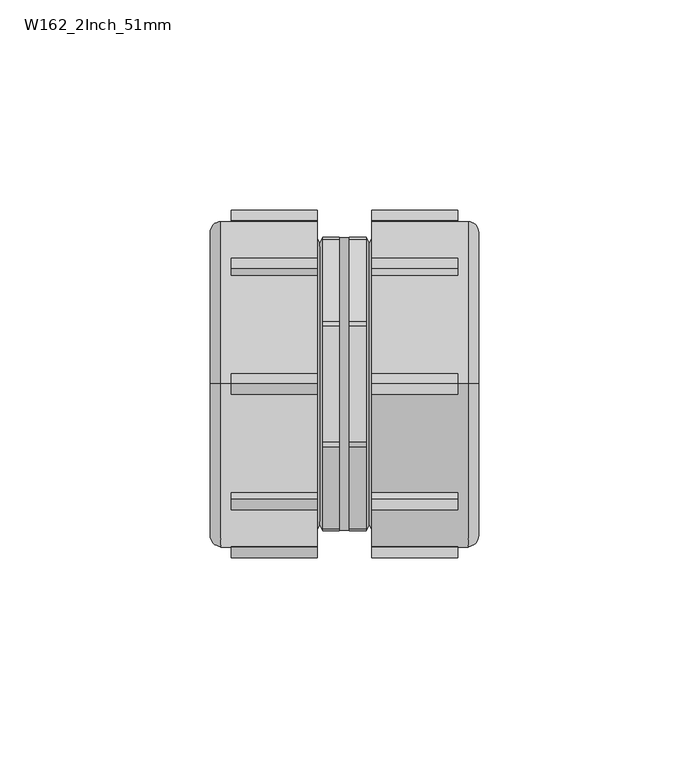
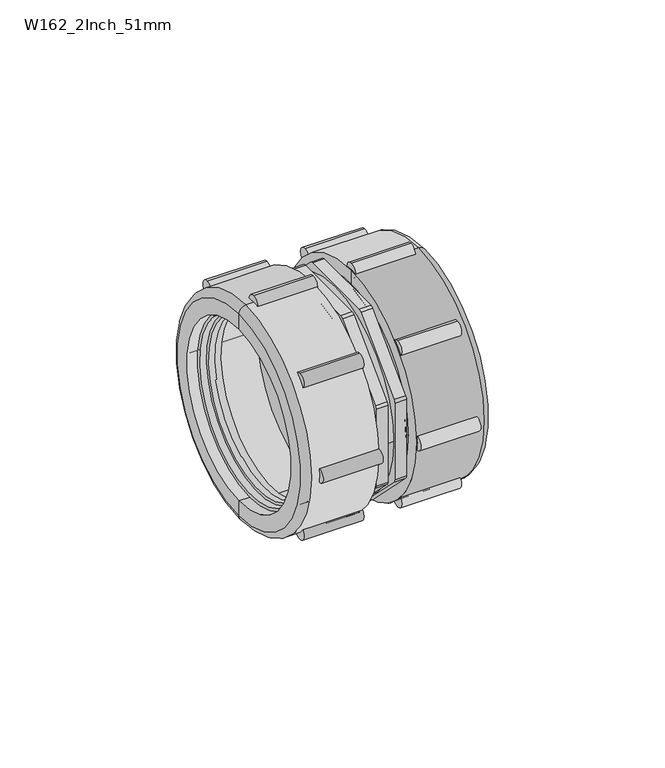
"""IFC4 building model written with IfcOpenShell, lengths in millimetres: pipe fitting geometry, Durapipe_PipeFitting_VulcatheneMechanical_LineCoupler_W16 : W162_2Inch_51mm."""

from ifc_helpers import new_model, si_unit, point, frame, frame_2d, origin, place, context, project, spatial, polyline, circle_curve, ellipse_curve, trimmed, segment, composite_curve, outline, extrude, source, transform, mapped, element, save
from ifc_brep_helpers import plane_surface, cylinder_surface, revolved_surface, advanced_brep


def w162_2inch_51mm_dc409c0e(model_context):
    return source(origin(), model_context, "Body", "SolidModel", [
        advanced_brep(
        [(28.0, -22.839549, 22.839549), (28.0, 22.839549, -22.839549), (28.0, 21.2839141, -21.2839141), (28.0, -21.2839141, 21.2839141), (22.4, -22.3445743, 22.3445743), (22.4, 22.3445743, -22.3445743), (21.0, -21.9203102, 21.9203102), (21.0, 21.9203102, -21.9203102), (22.4, 21.9203102, -21.9203102), (22.4, -21.9203102, 21.9203102), (21.0, -20.9303607, 20.9303607), (21.0, 20.9303607, -20.9303607), (23.3, -20.9303607, 20.9303607), (23.3, 20.9303607, -20.9303607), (23.3, -20.647518, 20.647518), (23.3, 20.647518, -20.647518), (25.5, -21.2839141, 21.2839141), (25.5, 21.2839141, -21.2839141), (25.5, 20.647518, -20.647518), (25.5, -20.647518, 20.647518)],
        [
            (0, 1, circle_curve(frame((28.0, 0.0, 0.0), z_axis=(1.0, 0.0, 0.0), x_axis=(0.0, 0.7071067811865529, -0.7071067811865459)), 32.3)),
            (1, 2),
            (2, 3, circle_curve(frame((28.0, 0.0, 0.0), z_axis=(-1.0, 0.0, 0.0), x_axis=(0.0, 0.7071067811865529, -0.7071067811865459)), 30.1)),
            (3, 0),
            (1, 0, circle_curve(frame((28.0, 0.0, 0.0), z_axis=(1.0, 0.0, 0.0), x_axis=(0.0, 0.7071067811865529, -0.7071067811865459)), 32.3)),
            (3, 2, circle_curve(frame((28.0, 0.0, 0.0), z_axis=(-1.0, 0.0, 0.0), x_axis=(0.0, 0.7071067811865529, -0.7071067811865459)), 30.1)),
            (4, 5, circle_curve(frame((22.4, 0.0, 0.0), z_axis=(1.0, 0.0, 0.0), x_axis=(0.0, 0.7071067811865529, -0.7071067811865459)), 31.6)),
            (5, 1),
            (0, 4),
            (5, 4, circle_curve(frame((22.4, 0.0, 0.0), z_axis=(1.0, 0.0, 0.0), x_axis=(0.0, 0.7071067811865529, -0.7071067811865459)), 31.6)),
            (6, 7, circle_curve(frame((21.0, 0.0, 0.0), z_axis=(1.0, 0.0, 0.0), x_axis=(0.0, 0.7071067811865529, -0.7071067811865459)), 31.0)),
            (7, 8),
            (8, 9, circle_curve(frame((22.4, 0.0, 0.0), z_axis=(-1.0, 0.0, 0.0), x_axis=(0.0, 0.7071067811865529, -0.7071067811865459)), 31.0)),
            (9, 6),
            (7, 6, circle_curve(frame((21.0, 0.0, 0.0), z_axis=(1.0, 0.0, 0.0), x_axis=(0.0, 0.7071067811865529, -0.7071067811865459)), 31.0)),
            (9, 8, circle_curve(frame((22.4, 0.0, 0.0), z_axis=(-1.0, 0.0, 0.0), x_axis=(0.0, 0.7071067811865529, -0.7071067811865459)), 31.0)),
            (6, 10),
            (10, 11, circle_curve(frame((21.0, 0.0, 0.0), z_axis=(1.0, 0.0, 0.0), x_axis=(0.0, 0.7071067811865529, -0.7071067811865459)), 29.6)),
            (11, 7),
            (11, 10, circle_curve(frame((21.0, 0.0, 0.0), z_axis=(1.0, 0.0, 0.0), x_axis=(0.0, 0.7071067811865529, -0.7071067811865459)), 29.6)),
            (10, 12),
            (12, 13, circle_curve(frame((23.3, 0.0, 0.0), z_axis=(1.0, 0.0, 0.0), x_axis=(0.0, 0.7071067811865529, -0.7071067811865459)), 29.6)),
            (13, 11),
            (13, 12, circle_curve(frame((23.3, 0.0, 0.0), z_axis=(1.0, 0.0, 0.0), x_axis=(0.0, 0.7071067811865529, -0.7071067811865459)), 29.6)),
            (12, 14),
            (14, 15, circle_curve(frame((23.3, 0.0, 0.0), z_axis=(1.0, 0.0, 0.0), x_axis=(0.0, 0.7071067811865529, -0.7071067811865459)), 29.2)),
            (15, 13),
            (15, 14, circle_curve(frame((23.3, 0.0, 0.0), z_axis=(1.0, 0.0, 0.0), x_axis=(0.0, 0.7071067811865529, -0.7071067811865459)), 29.2)),
            (16, 17, circle_curve(frame((25.5, 0.0, 0.0), z_axis=(1.0, 0.0, 0.0), x_axis=(0.0, 0.7071067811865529, -0.7071067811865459)), 30.1)),
            (17, 18),
            (18, 19, circle_curve(frame((25.5, 0.0, 0.0), z_axis=(-1.0, 0.0, 0.0), x_axis=(0.0, 0.7071067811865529, -0.7071067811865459)), 29.2)),
            (19, 16),
            (17, 16, circle_curve(frame((25.5, 0.0, 0.0), z_axis=(1.0, 0.0, 0.0), x_axis=(0.0, 0.7071067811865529, -0.7071067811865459)), 30.1)),
            (19, 18, circle_curve(frame((25.5, 0.0, 0.0), z_axis=(-1.0, 0.0, 0.0), x_axis=(0.0, 0.7071067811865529, -0.7071067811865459)), 29.2)),
            (2, 17),
            (16, 3),
            (14, 19),
            (18, 15),
            (4, 9),
            (8, 5),
        ],
        [
            plane_surface(frame((28.0, 0.0, 0.0), z_axis=(1.0, 0.0, 0.0), x_axis=(0.0, 0.707106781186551, -0.707106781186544))),
            revolved_surface(polyline([(28.0, 22.839549, -22.839549), (22.4, 22.3445743, -22.3445743)]), (33.0, 0.0, 0.0), (-1.0000000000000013, 0.0, 0.0)),
            cylinder_surface(frame((18.9293443, 0.0, 0.0), z_axis=(-1.0000000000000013, 0.0, 0.0), x_axis=(0.0, 0.7071067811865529, -0.7071067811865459)), 31.0),
            plane_surface(frame((21.0, 0.0, 0.0), z_axis=(-1.0, 0.0, 0.0), x_axis=(0.0, 0.707106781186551, -0.707106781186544))),
            revolved_surface(polyline([(21.000000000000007, 20.930360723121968, -20.93036072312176), (23.30000000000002, 20.930360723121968, -20.93036072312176)]), (17.507009, 0.0, 0.0), (-1.0000000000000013, 0.0, 0.0)),
            plane_surface(frame((23.3, 0.0, 0.0), z_axis=(-1.0, 0.0, 0.0), x_axis=(0.0, 0.707106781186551, -0.707106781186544))),
            plane_surface(frame((25.5, 0.0, 0.0), z_axis=(1.0, 0.0, 0.0), x_axis=(0.0, 0.707106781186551, -0.707106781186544))),
            revolved_surface(polyline([(25.49999999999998, 21.283914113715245, -21.28391411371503), (27.999999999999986, 21.283914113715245, -21.28391411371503)]), (33.0, 0.0, 0.0), (-1.0000000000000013, 0.0, 0.0)),
            revolved_surface(polyline([(23.299999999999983, 20.647518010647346, -20.64751801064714), (25.49999999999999, 20.647518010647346, -20.64751801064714)]), (29.5661924, 0.0, 0.0), (-1.0000000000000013, 0.0, 0.0)),
            plane_surface(frame((22.4, 0.0, 0.0), z_axis=(-1.0, 0.0, 0.0), x_axis=(0.0, 0.707106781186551, -0.707106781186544))),
        ],
        [
            (0, [[1, 2, 3, 4]]),
            (0, [[-2, 5, -4, 6]]),
            (1, [[7, 8, -1, 9]]),
            (1, [[10, -9, -5, -8]]),
            (2, [[11, 12, 13, 14]]),
            (2, [[-12, 15, -14, 16]]),
            (3, [[-11, 17, 18, 19]]),
            (3, [[-15, -19, 20, -17]]),
            (4, [[21, 22, 23, -18]]),
            (4, [[-21, -20, -23, 24]]),
            (5, [[-22, 25, 26, 27]]),
            (5, [[-24, -27, 28, -25]]),
            (6, [[29, 30, 31, 32]]),
            (6, [[33, -32, 34, -30]]),
            (7, [[-3, 35, -29, 36]]),
            (7, [[-6, -36, -33, -35]]),
            (8, [[37, -31, 38, -26]]),
            (8, [[-37, -28, -38, -34]]),
            (9, [[-7, 39, -13, 40]]),
            (9, [[-10, -40, -16, -39]]),
        ],
    ),
        advanced_brep(
        [(6.5, 0.0, 38.8), (6.5, 0.0, -38.8), (29.4, 0.0, -38.8), (29.4, 0.0, 38.8), (6.5, 0.0, 33.0), (6.5, 0.0, -33.0), (31.9, 0.0, 36.3), (31.9, 0.0, -36.3), (31.9, 0.0, -31.0), (31.9, 0.0, 31.0), (28.0, 0.0, 33.0), (28.0, 0.0, -33.0), (28.0, 0.0, 31.0), (28.0, 0.0, -31.0)],
        [
            (0, 1, circle_curve(frame((6.5, 0.0, 0.0), z_axis=(1.0, 0.0, 0.0), x_axis=(0.0, 0.0, -1.0000000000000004)), 38.8)),
            (1, 2),
            (2, 3, circle_curve(frame((29.4, 0.0, 0.0), z_axis=(-1.0, 0.0, 0.0), x_axis=(0.0, 0.0, -1.0000000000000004)), 38.8)),
            (3, 0),
            (1, 0, circle_curve(frame((6.5, 0.0, 0.0), z_axis=(1.0, 0.0, 0.0), x_axis=(0.0, 0.0, -1.0000000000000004)), 38.8)),
            (3, 2, circle_curve(frame((29.4, 0.0, 0.0), z_axis=(-1.0, 0.0, 0.0), x_axis=(0.0, 0.0, -1.0000000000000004)), 38.8)),
            (4, 5, circle_curve(frame((6.5, 0.0, 0.0), z_axis=(1.0, 0.0, 0.0), x_axis=(0.0, 0.0, -1.0000000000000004)), 33.0)),
            (5, 1),
            (0, 4),
            (5, 4, circle_curve(frame((6.5, 0.0, 0.0), z_axis=(1.0, 0.0, 0.0), x_axis=(0.0, 0.0, -1.0000000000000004)), 33.0)),
            (6, 7, circle_curve(frame((31.9, 0.0, 0.0), z_axis=(1.0, 0.0, 0.0), x_axis=(0.0, 0.0, -1.0000000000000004)), 36.3)),
            (7, 8),
            (8, 9, circle_curve(frame((31.9, 0.0, 0.0), z_axis=(-1.0, 0.0, 0.0), x_axis=(0.0, 0.0, -1.0000000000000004)), 31.0)),
            (9, 6),
            (7, 6, circle_curve(frame((31.9, 0.0, 0.0), z_axis=(1.0, 0.0, 0.0), x_axis=(0.0, 0.0, -1.0000000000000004)), 36.3)),
            (9, 8, circle_curve(frame((31.9, 0.0, 0.0), z_axis=(-1.0, 0.0, 0.0), x_axis=(0.0, 0.0, -1.0000000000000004)), 31.0)),
            (2, 7, circle_curve(frame((29.4, 0.0, -36.3), z_axis=(0.0, -1.0000000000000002, 0.0), x_axis=(1.0000000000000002, 0.0, 0.0)), 2.5)),
            (6, 3, circle_curve(frame((29.4, 0.0, 36.3), z_axis=(0.0, -1.0000000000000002, 0.0), x_axis=(1.0000000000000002, 0.0, 0.0)), 2.5)),
            (10, 11, circle_curve(frame((28.0, 0.0, 0.0), z_axis=(1.0, 0.0, 0.0), x_axis=(0.0, 0.0, -1.0000000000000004)), 33.0)),
            (11, 5),
            (4, 10),
            (11, 10, circle_curve(frame((28.0, 0.0, 0.0), z_axis=(1.0, 0.0, 0.0), x_axis=(0.0, 0.0, -1.0000000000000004)), 33.0)),
            (12, 13, circle_curve(frame((28.0, 0.0, 0.0), z_axis=(1.0, 0.0, 0.0), x_axis=(0.0, 0.0, -1.0000000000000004)), 31.0)),
            (13, 11),
            (10, 12),
            (13, 12, circle_curve(frame((28.0, 0.0, 0.0), z_axis=(1.0, 0.0, 0.0), x_axis=(0.0, 0.0, -1.0000000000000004)), 31.0)),
            (8, 13),
            (12, 9),
        ],
        [
            cylinder_surface(frame((1592.7018184, 0.0, 0.0), z_axis=(-1.0000000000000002, 0.0, 0.0), x_axis=(0.0, 0.0, -1.0000000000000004)), 38.8),
            plane_surface(frame((6.5, 0.0, 0.0), z_axis=(-1.0, 0.0, 0.0), x_axis=(0.0, 0.0, -1.0))),
            plane_surface(frame((31.9, 0.0, 0.0), z_axis=(1.0, 0.0, 0.0), x_axis=(0.0, 0.0, -1.0))),
            revolved_surface(trimmed(ellipse_curve(frame((29.4, 0.0, -36.3), z_axis=(0.0, 1.0000000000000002, 0.0), x_axis=(1.0000000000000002, 0.0, 0.0)), 2.5, 2.5), [point((31.9, 0.0, -36.3))], [point((29.4, 0.0, -38.8))], True, "CARTESIAN"), (1592.7018184, 0.0, 0.0), (-1.0000000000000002, 0.0, 0.0)),
            revolved_surface(polyline([(6.4999999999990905, 0.0, -33.000000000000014), (27.99999999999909, 0.0, -33.000000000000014)]), (1592.7018184, 0.0, 0.0), (-1.0000000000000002, 0.0, 0.0)),
            plane_surface(frame((28.0, 0.0, 0.0), z_axis=(-1.0, 0.0, 0.0), x_axis=(0.0, 0.0, -1.0))),
            revolved_surface(polyline([(27.99999999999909, 0.0, -31.000000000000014), (31.89999999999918, 0.0, -31.000000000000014)]), (1592.7018184, 0.0, 0.0), (-1.0000000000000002, 0.0, 0.0)),
        ],
        [
            (0, [[1, 2, 3, 4]]),
            (0, [[5, -4, 6, -2]]),
            (1, [[7, 8, -1, 9]]),
            (1, [[10, -9, -5, -8]]),
            (2, [[11, 12, 13, 14]]),
            (2, [[15, -14, 16, -12]]),
            (3, [[-3, 17, -11, 18]]),
            (3, [[-6, -18, -15, -17]]),
            (4, [[19, 20, -7, 21]]),
            (4, [[22, -21, -10, -20]]),
            (5, [[23, 24, -19, 25]]),
            (5, [[26, -25, -22, -24]]),
            (6, [[-13, 27, -23, 28]]),
            (6, [[-16, -28, -26, -27]]),
        ],
    ),
        extrude(outline(composite_curve([segment(trimmed(circle_curve(frame_2d((38.8, 0.0)), 2.5), [point((38.8, 2.5))], [point((38.8, -2.5))], False, "CARTESIAN"), True, "CONTINUOUS"), segment(trimmed(circle_curve(frame_2d((38.8, 0.0)), 2.5), [point((38.8, -2.5))], [point((38.8, 2.5))], False, "CARTESIAN"), True, "CONTINUOUS")], self_intersect=False)), frame((6.5, 0.0, 0.0), z_axis=(1.0, 0.0, 0.0), x_axis=(0.0, 1.0, 0.0)), (0.0, 0.0, 1.0), 20.4),
        extrude(outline(composite_curve([segment(trimmed(circle_curve(frame_2d((27.4357431, -27.4357431)), 2.5), [point((27.4357431, -24.9357431))], [point((27.4357431, -29.9357431))], False, "CARTESIAN"), True, "CONTINUOUS"), segment(trimmed(circle_curve(frame_2d((27.4357431, -27.4357431)), 2.5), [point((27.4357431, -29.9357431))], [point((27.4357431, -24.9357431))], False, "CARTESIAN"), True, "CONTINUOUS")], self_intersect=False)), frame((6.5, 0.0, 0.0), z_axis=(1.0, 0.0, 0.0), x_axis=(0.0, 1.0, 0.0)), (0.0, 0.0, 1.0), 20.4),
        extrude(outline(composite_curve([segment(trimmed(circle_curve(frame_2d((0.0, -38.8)), 2.5), [point((0.0, -36.3))], [point((0.0, -41.3))], False, "CARTESIAN"), True, "CONTINUOUS"), segment(trimmed(circle_curve(frame_2d((0.0, -38.8)), 2.5), [point((0.0, -41.3))], [point((0.0, -36.3))], False, "CARTESIAN"), True, "CONTINUOUS")], self_intersect=False)), frame((6.5, 0.0, 0.0), z_axis=(1.0, 0.0, 0.0), x_axis=(0.0, 1.0, 0.0)), (0.0, 0.0, 1.0), 20.4),
        extrude(outline(composite_curve([segment(trimmed(circle_curve(frame_2d((-27.4357431, -27.4357431)), 2.5), [point((-27.4357431, -24.9357431))], [point((-27.4357431, -29.9357431))], False, "CARTESIAN"), True, "CONTINUOUS"), segment(trimmed(circle_curve(frame_2d((-27.4357431, -27.4357431)), 2.5), [point((-27.4357431, -29.9357431))], [point((-27.4357431, -24.9357431))], False, "CARTESIAN"), True, "CONTINUOUS")], self_intersect=False)), frame((6.5, 0.0, 0.0), z_axis=(1.0, 0.0, 0.0), x_axis=(0.0, 1.0, 0.0)), (0.0, 0.0, 1.0), 20.4),
        extrude(outline(composite_curve([segment(trimmed(circle_curve(frame_2d((-38.8, 0.0)), 2.5), [point((-38.8, 2.5))], [point((-38.8, -2.5))], False, "CARTESIAN"), True, "CONTINUOUS"), segment(trimmed(circle_curve(frame_2d((-38.8, 0.0)), 2.5), [point((-38.8, -2.5))], [point((-38.8, 2.5))], False, "CARTESIAN"), True, "CONTINUOUS")], self_intersect=False)), frame((6.5, 0.0, 0.0), z_axis=(1.0, 0.0, 0.0), x_axis=(0.0, 1.0, 0.0)), (0.0, 0.0, 1.0), 20.4),
        extrude(outline(composite_curve([segment(trimmed(circle_curve(frame_2d((-27.4357431, 27.4357431)), 2.5), [point((-27.4357431, 29.9357431))], [point((-27.4357431, 24.9357431))], False, "CARTESIAN"), True, "CONTINUOUS"), segment(trimmed(circle_curve(frame_2d((-27.4357431, 27.4357431)), 2.5), [point((-27.4357431, 24.9357431))], [point((-27.4357431, 29.9357431))], False, "CARTESIAN"), True, "CONTINUOUS")], self_intersect=False)), frame((6.5, 0.0, 0.0), z_axis=(1.0, 0.0, 0.0), x_axis=(0.0, 1.0, 0.0)), (0.0, 0.0, 1.0), 20.4),
        extrude(outline(composite_curve([segment(trimmed(circle_curve(frame_2d((0.0, 38.8)), 2.5), [point((0.0, 41.3))], [point((0.0, 36.3))], False, "CARTESIAN"), True, "CONTINUOUS"), segment(trimmed(circle_curve(frame_2d((0.0, 38.8)), 2.5), [point((0.0, 36.3))], [point((0.0, 41.3))], False, "CARTESIAN"), True, "CONTINUOUS")], self_intersect=False)), frame((6.5, 0.0, 0.0), z_axis=(1.0, 0.0, 0.0), x_axis=(0.0, 1.0, 0.0)), (0.0, 0.0, 1.0), 20.4),
        extrude(outline(composite_curve([segment(trimmed(circle_curve(frame_2d((27.4357431, 27.4357431)), 2.5), [point((27.4357431, 29.9357431))], [point((27.4357431, 24.9357431))], False, "CARTESIAN"), True, "CONTINUOUS"), segment(trimmed(circle_curve(frame_2d((27.4357431, 27.4357431)), 2.5), [point((27.4357431, 24.9357431))], [point((27.4357431, 29.9357431))], False, "CARTESIAN"), True, "CONTINUOUS")], self_intersect=False)), frame((6.5, 0.0, 0.0), z_axis=(1.0, 0.0, 0.0), x_axis=(0.0, 1.0, 0.0)), (0.0, 0.0, 1.0), 20.4),
        advanced_brep(
        [(-28.0, -22.839549, -22.839549), (-28.0, 22.839549, 22.839549), (-28.0, 21.2839141, 21.2839141), (-28.0, -21.2839141, -21.2839141), (-22.4, -22.3445743, -22.3445743), (-22.4, 22.3445743, 22.3445743), (-21.0, -21.9203102, -21.9203102), (-21.0, 21.9203102, 21.9203102), (-22.4, 21.9203102, 21.9203102), (-22.4, -21.9203102, -21.9203102), (-21.0, -20.9303607, -20.9303607), (-21.0, 20.9303607, 20.9303607), (-23.3, -20.9303607, -20.9303607), (-23.3, 20.9303607, 20.9303607), (-23.3, -20.647518, -20.647518), (-23.3, 20.647518, 20.647518), (-25.5, -21.2839141, -21.2839141), (-25.5, 21.2839141, 21.2839141), (-25.5, 20.647518, 20.647518), (-25.5, -20.647518, -20.647518)],
        [
            (0, 1, circle_curve(frame((-28.0, 0.0, 0.0), z_axis=(-1.0, 0.0, 0.0), x_axis=(0.0, 0.7071067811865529, 0.7071067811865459)), 32.3)),
            (1, 2),
            (2, 3, circle_curve(frame((-28.0, 0.0, 0.0), z_axis=(1.0, 0.0, 0.0), x_axis=(0.0, 0.7071067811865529, 0.7071067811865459)), 30.1)),
            (3, 0),
            (1, 0, circle_curve(frame((-28.0, 0.0, 0.0), z_axis=(-1.0, 0.0, 0.0), x_axis=(0.0, 0.7071067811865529, 0.7071067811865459)), 32.3)),
            (3, 2, circle_curve(frame((-28.0, 0.0, 0.0), z_axis=(1.0, 0.0, 0.0), x_axis=(0.0, 0.7071067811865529, 0.7071067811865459)), 30.1)),
            (4, 5, circle_curve(frame((-22.4, 0.0, 0.0), z_axis=(-1.0, 0.0, 0.0), x_axis=(0.0, 0.7071067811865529, 0.7071067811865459)), 31.6)),
            (5, 1),
            (0, 4),
            (5, 4, circle_curve(frame((-22.4, 0.0, 0.0), z_axis=(-1.0, 0.0, 0.0), x_axis=(0.0, 0.7071067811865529, 0.7071067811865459)), 31.6)),
            (6, 7, circle_curve(frame((-21.0, 0.0, 0.0), z_axis=(-1.0, 0.0, 0.0), x_axis=(0.0, 0.7071067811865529, 0.7071067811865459)), 31.0)),
            (7, 8),
            (8, 9, circle_curve(frame((-22.4, 0.0, 0.0), z_axis=(1.0, 0.0, 0.0), x_axis=(0.0, 0.7071067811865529, 0.7071067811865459)), 31.0)),
            (9, 6),
            (7, 6, circle_curve(frame((-21.0, 0.0, 0.0), z_axis=(-1.0, 0.0, 0.0), x_axis=(0.0, 0.7071067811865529, 0.7071067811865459)), 31.0)),
            (9, 8, circle_curve(frame((-22.4, 0.0, 0.0), z_axis=(1.0, 0.0, 0.0), x_axis=(0.0, 0.7071067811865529, 0.7071067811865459)), 31.0)),
            (6, 10),
            (10, 11, circle_curve(frame((-21.0, 0.0, 0.0), z_axis=(-1.0, 0.0, 0.0), x_axis=(0.0, 0.7071067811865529, 0.7071067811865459)), 29.6)),
            (11, 7),
            (11, 10, circle_curve(frame((-21.0, 0.0, 0.0), z_axis=(-1.0, 0.0, 0.0), x_axis=(0.0, 0.7071067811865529, 0.7071067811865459)), 29.6)),
            (10, 12),
            (12, 13, circle_curve(frame((-23.3, 0.0, 0.0), z_axis=(-1.0, 0.0, 0.0), x_axis=(0.0, 0.7071067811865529, 0.7071067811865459)), 29.6)),
            (13, 11),
            (13, 12, circle_curve(frame((-23.3, 0.0, 0.0), z_axis=(-1.0, 0.0, 0.0), x_axis=(0.0, 0.7071067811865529, 0.7071067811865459)), 29.6)),
            (12, 14),
            (14, 15, circle_curve(frame((-23.3, 0.0, 0.0), z_axis=(-1.0, 0.0, 0.0), x_axis=(0.0, 0.7071067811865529, 0.7071067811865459)), 29.2)),
            (15, 13),
            (15, 14, circle_curve(frame((-23.3, 0.0, 0.0), z_axis=(-1.0, 0.0, 0.0), x_axis=(0.0, 0.7071067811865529, 0.7071067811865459)), 29.2)),
            (16, 17, circle_curve(frame((-25.5, 0.0, 0.0), z_axis=(-1.0, 0.0, 0.0), x_axis=(0.0, 0.7071067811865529, 0.7071067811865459)), 30.1)),
            (17, 18),
            (18, 19, circle_curve(frame((-25.5, 0.0, 0.0), z_axis=(1.0, 0.0, 0.0), x_axis=(0.0, 0.7071067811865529, 0.7071067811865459)), 29.2)),
            (19, 16),
            (17, 16, circle_curve(frame((-25.5, 0.0, 0.0), z_axis=(-1.0, 0.0, 0.0), x_axis=(0.0, 0.7071067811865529, 0.7071067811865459)), 30.1)),
            (19, 18, circle_curve(frame((-25.5, 0.0, 0.0), z_axis=(1.0, 0.0, 0.0), x_axis=(0.0, 0.7071067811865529, 0.7071067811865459)), 29.2)),
            (2, 17),
            (16, 3),
            (14, 19),
            (18, 15),
            (4, 9),
            (8, 5),
        ],
        [
            plane_surface(frame((-28.0, 0.0, 0.0), z_axis=(-1.0, 0.0, 0.0), x_axis=(0.0, 0.707106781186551, 0.707106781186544))),
            revolved_surface(polyline([(-28.0, 22.839549, 22.839549), (-22.4, 22.3445743, 22.3445743)]), (-33.0, 0.0, 0.0), (1.0000000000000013, 0.0, 0.0)),
            cylinder_surface(frame((-18.9293443, 0.0, 0.0), z_axis=(1.0000000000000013, 0.0, 0.0), x_axis=(0.0, 0.7071067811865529, 0.7071067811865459)), 31.0),
            plane_surface(frame((-21.0, 0.0, 0.0), z_axis=(1.0, 0.0, 0.0), x_axis=(0.0, 0.707106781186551, 0.707106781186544))),
            revolved_surface(polyline([(-21.000000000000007, 20.930360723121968, 20.93036072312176), (-23.30000000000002, 20.930360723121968, 20.93036072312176)]), (-17.507009, 0.0, 0.0), (1.0000000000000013, 0.0, 0.0)),
            plane_surface(frame((-23.3, 0.0, 0.0), z_axis=(1.0, 0.0, 0.0), x_axis=(0.0, 0.707106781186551, 0.707106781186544))),
            plane_surface(frame((-25.5, 0.0, 0.0), z_axis=(-1.0, 0.0, 0.0), x_axis=(0.0, 0.707106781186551, 0.707106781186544))),
            revolved_surface(polyline([(-25.49999999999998, 21.283914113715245, 21.28391411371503), (-27.999999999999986, 21.283914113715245, 21.28391411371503)]), (-33.0, 0.0, 0.0), (1.0000000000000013, 0.0, 0.0)),
            revolved_surface(polyline([(-23.299999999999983, 20.647518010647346, 20.64751801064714), (-25.49999999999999, 20.647518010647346, 20.64751801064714)]), (-29.5661924, 0.0, 0.0), (1.0000000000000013, 0.0, 0.0)),
            plane_surface(frame((-22.4, 0.0, 0.0), z_axis=(1.0, 0.0, 0.0), x_axis=(0.0, 0.707106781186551, 0.707106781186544))),
        ],
        [
            (0, [[1, 2, 3, 4]]),
            (0, [[-2, 5, -4, 6]]),
            (1, [[7, 8, -1, 9]]),
            (1, [[10, -9, -5, -8]]),
            (2, [[11, 12, 13, 14]]),
            (2, [[-12, 15, -14, 16]]),
            (3, [[-11, 17, 18, 19]]),
            (3, [[-15, -19, 20, -17]]),
            (4, [[21, 22, 23, -18]]),
            (4, [[-21, -20, -23, 24]]),
            (5, [[-22, 25, 26, 27]]),
            (5, [[-24, -27, 28, -25]]),
            (6, [[29, 30, 31, 32]]),
            (6, [[33, -32, 34, -30]]),
            (7, [[-3, 35, -29, 36]]),
            (7, [[-6, -36, -33, -35]]),
            (8, [[37, -31, 38, -26]]),
            (8, [[-37, -28, -38, -34]]),
            (9, [[-7, 39, -13, 40]]),
            (9, [[-10, -40, -16, -39]]),
        ],
    ),
        advanced_brep(
        [(-6.5, 0.0, -38.8), (-6.5, 0.0, 38.8), (-29.4, 0.0, 38.8), (-29.4, 0.0, -38.8), (-6.5, 0.0, -33.0), (-6.5, 0.0, 33.0), (-31.9, 0.0, -36.3), (-31.9, 0.0, 36.3), (-31.9, 0.0, 31.0), (-31.9, 0.0, -31.0), (-28.0, 0.0, -33.0), (-28.0, 0.0, 33.0), (-28.0, 0.0, -31.0), (-28.0, 0.0, 31.0)],
        [
            (0, 1, circle_curve(frame((-6.5, 0.0, 0.0), z_axis=(-1.0, 0.0, 0.0), x_axis=(0.0, 0.0, 1.0000000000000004)), 38.8)),
            (1, 2),
            (2, 3, circle_curve(frame((-29.4, 0.0, 0.0), z_axis=(1.0, 0.0, 0.0), x_axis=(0.0, 0.0, 1.0000000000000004)), 38.8)),
            (3, 0),
            (1, 0, circle_curve(frame((-6.5, 0.0, 0.0), z_axis=(-1.0, 0.0, 0.0), x_axis=(0.0, 0.0, 1.0000000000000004)), 38.8)),
            (3, 2, circle_curve(frame((-29.4, 0.0, 0.0), z_axis=(1.0, 0.0, 0.0), x_axis=(0.0, 0.0, 1.0000000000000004)), 38.8)),
            (4, 5, circle_curve(frame((-6.5, 0.0, 0.0), z_axis=(-1.0, 0.0, 0.0), x_axis=(0.0, 0.0, 1.0000000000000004)), 33.0)),
            (5, 1),
            (0, 4),
            (5, 4, circle_curve(frame((-6.5, 0.0, 0.0), z_axis=(-1.0, 0.0, 0.0), x_axis=(0.0, 0.0, 1.0000000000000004)), 33.0)),
            (6, 7, circle_curve(frame((-31.9, 0.0, 0.0), z_axis=(-1.0, 0.0, 0.0), x_axis=(0.0, 0.0, 1.0000000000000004)), 36.3)),
            (7, 8),
            (8, 9, circle_curve(frame((-31.9, 0.0, 0.0), z_axis=(1.0, 0.0, 0.0), x_axis=(0.0, 0.0, 1.0000000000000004)), 31.0)),
            (9, 6),
            (7, 6, circle_curve(frame((-31.9, 0.0, 0.0), z_axis=(-1.0, 0.0, 0.0), x_axis=(0.0, 0.0, 1.0000000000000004)), 36.3)),
            (9, 8, circle_curve(frame((-31.9, 0.0, 0.0), z_axis=(1.0, 0.0, 0.0), x_axis=(0.0, 0.0, 1.0000000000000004)), 31.0)),
            (2, 7, circle_curve(frame((-29.4, 0.0, 36.3), z_axis=(0.0, -1.0000000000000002, 0.0), x_axis=(-1.0000000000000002, 0.0, 0.0)), 2.5)),
            (6, 3, circle_curve(frame((-29.4, 0.0, -36.3), z_axis=(0.0, -1.0000000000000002, 0.0), x_axis=(-1.0000000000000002, 0.0, 0.0)), 2.5)),
            (10, 11, circle_curve(frame((-28.0, 0.0, 0.0), z_axis=(-1.0, 0.0, 0.0), x_axis=(0.0, 0.0, 1.0000000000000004)), 33.0)),
            (11, 5),
            (4, 10),
            (11, 10, circle_curve(frame((-28.0, 0.0, 0.0), z_axis=(-1.0, 0.0, 0.0), x_axis=(0.0, 0.0, 1.0000000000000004)), 33.0)),
            (12, 13, circle_curve(frame((-28.0, 0.0, 0.0), z_axis=(-1.0, 0.0, 0.0), x_axis=(0.0, 0.0, 1.0000000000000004)), 31.0)),
            (13, 11),
            (10, 12),
            (13, 12, circle_curve(frame((-28.0, 0.0, 0.0), z_axis=(-1.0, 0.0, 0.0), x_axis=(0.0, 0.0, 1.0000000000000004)), 31.0)),
            (8, 13),
            (12, 9),
        ],
        [
            cylinder_surface(frame((-1592.7018184, 0.0, 0.0), z_axis=(1.0000000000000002, 0.0, 0.0), x_axis=(0.0, 0.0, 1.0000000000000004)), 38.8),
            plane_surface(frame((-6.5, 0.0, 0.0), z_axis=(1.0, 0.0, 0.0), x_axis=(0.0, 0.0, 1.0))),
            plane_surface(frame((-31.9, 0.0, 0.0), z_axis=(-1.0, 0.0, 0.0), x_axis=(0.0, 0.0, 1.0))),
            revolved_surface(trimmed(ellipse_curve(frame((-29.4, 0.0, 36.3), z_axis=(0.0, 1.0000000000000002, 0.0), x_axis=(-1.0000000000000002, 0.0, 0.0)), 2.5, 2.5), [point((-31.9, 0.0, 36.3))], [point((-29.4, 0.0, 38.8))], True, "CARTESIAN"), (-1592.7018184, 0.0, 0.0), (1.0000000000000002, 0.0, 0.0)),
            revolved_surface(polyline([(-6.4999999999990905, 0.0, 33.000000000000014), (-27.99999999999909, 0.0, 33.000000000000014)]), (-1592.7018184, 0.0, 0.0), (1.0000000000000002, 0.0, 0.0)),
            plane_surface(frame((-28.0, 0.0, 0.0), z_axis=(1.0, 0.0, 0.0), x_axis=(0.0, 0.0, 1.0))),
            revolved_surface(polyline([(-27.99999999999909, 0.0, 31.000000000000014), (-31.89999999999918, 0.0, 31.000000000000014)]), (-1592.7018184, 0.0, 0.0), (1.0000000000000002, 0.0, 0.0)),
        ],
        [
            (0, [[1, 2, 3, 4]]),
            (0, [[5, -4, 6, -2]]),
            (1, [[7, 8, -1, 9]]),
            (1, [[10, -9, -5, -8]]),
            (2, [[11, 12, 13, 14]]),
            (2, [[15, -14, 16, -12]]),
            (3, [[-3, 17, -11, 18]]),
            (3, [[-6, -18, -15, -17]]),
            (4, [[19, 20, -7, 21]]),
            (4, [[22, -21, -10, -20]]),
            (5, [[23, 24, -19, 25]]),
            (5, [[26, -25, -22, -24]]),
            (6, [[-13, 27, -23, 28]]),
            (6, [[-16, -28, -26, -27]]),
        ],
    ),
        extrude(outline(composite_curve([segment(trimmed(circle_curve(frame_2d((38.8, 0.0)), 2.5), [point((38.8, -2.5))], [point((38.8, 2.5))], False, "CARTESIAN"), True, "CONTINUOUS"), segment(trimmed(circle_curve(frame_2d((38.8, 0.0)), 2.5), [point((38.8, 2.5))], [point((38.8, -2.5))], False, "CARTESIAN"), True, "CONTINUOUS")], self_intersect=False)), frame((-26.9, 0.0, 0.0), z_axis=(1.0, 0.0, 0.0), x_axis=(0.0, 1.0, 0.0)), (0.0, 0.0, 1.0), 20.4),
        extrude(outline(composite_curve([segment(trimmed(circle_curve(frame_2d((27.4357431, 27.4357431)), 2.5), [point((27.4357431, 24.9357431))], [point((27.4357431, 29.9357431))], False, "CARTESIAN"), True, "CONTINUOUS"), segment(trimmed(circle_curve(frame_2d((27.4357431, 27.4357431)), 2.5), [point((27.4357431, 29.9357431))], [point((27.4357431, 24.9357431))], False, "CARTESIAN"), True, "CONTINUOUS")], self_intersect=False)), frame((-26.9, 0.0, 0.0), z_axis=(1.0, 0.0, 0.0), x_axis=(0.0, 1.0, 0.0)), (0.0, 0.0, 1.0), 20.4),
        extrude(outline(composite_curve([segment(trimmed(circle_curve(frame_2d((0.0, 38.8)), 2.5), [point((0.0, 36.3))], [point((0.0, 41.3))], False, "CARTESIAN"), True, "CONTINUOUS"), segment(trimmed(circle_curve(frame_2d((0.0, 38.8)), 2.5), [point((0.0, 41.3))], [point((0.0, 36.3))], False, "CARTESIAN"), True, "CONTINUOUS")], self_intersect=False)), frame((-26.9, 0.0, 0.0), z_axis=(1.0, 0.0, 0.0), x_axis=(0.0, 1.0, 0.0)), (0.0, 0.0, 1.0), 20.4),
        extrude(outline(composite_curve([segment(trimmed(circle_curve(frame_2d((-27.4357431, 27.4357431)), 2.5), [point((-27.4357431, 24.9357431))], [point((-27.4357431, 29.9357431))], False, "CARTESIAN"), True, "CONTINUOUS"), segment(trimmed(circle_curve(frame_2d((-27.4357431, 27.4357431)), 2.5), [point((-27.4357431, 29.9357431))], [point((-27.4357431, 24.9357431))], False, "CARTESIAN"), True, "CONTINUOUS")], self_intersect=False)), frame((-26.9, 0.0, 0.0), z_axis=(1.0, 0.0, 0.0), x_axis=(0.0, 1.0, 0.0)), (0.0, 0.0, 1.0), 20.4),
        extrude(outline(composite_curve([segment(trimmed(circle_curve(frame_2d((-38.8, 0.0)), 2.5), [point((-38.8, -2.5))], [point((-38.8, 2.5))], False, "CARTESIAN"), True, "CONTINUOUS"), segment(trimmed(circle_curve(frame_2d((-38.8, 0.0)), 2.5), [point((-38.8, 2.5))], [point((-38.8, -2.5))], False, "CARTESIAN"), True, "CONTINUOUS")], self_intersect=False)), frame((-26.9, 0.0, 0.0), z_axis=(1.0, 0.0, 0.0), x_axis=(0.0, 1.0, 0.0)), (0.0, 0.0, 1.0), 20.4),
        extrude(outline(composite_curve([segment(trimmed(circle_curve(frame_2d((-27.4357431, -27.4357431)), 2.5), [point((-27.4357431, -29.9357431))], [point((-27.4357431, -24.9357431))], False, "CARTESIAN"), True, "CONTINUOUS"), segment(trimmed(circle_curve(frame_2d((-27.4357431, -27.4357431)), 2.5), [point((-27.4357431, -24.9357431))], [point((-27.4357431, -29.9357431))], False, "CARTESIAN"), True, "CONTINUOUS")], self_intersect=False)), frame((-26.9, 0.0, 0.0), z_axis=(1.0, 0.0, 0.0), x_axis=(0.0, 1.0, 0.0)), (0.0, 0.0, 1.0), 20.4),
        extrude(outline(composite_curve([segment(trimmed(circle_curve(frame_2d((0.0, -38.8)), 2.5), [point((0.0, -41.3))], [point((0.0, -36.3))], False, "CARTESIAN"), True, "CONTINUOUS"), segment(trimmed(circle_curve(frame_2d((0.0, -38.8)), 2.5), [point((0.0, -36.3))], [point((0.0, -41.3))], False, "CARTESIAN"), True, "CONTINUOUS")], self_intersect=False)), frame((-26.9, 0.0, 0.0), z_axis=(1.0, 0.0, 0.0), x_axis=(0.0, 1.0, 0.0)), (0.0, 0.0, 1.0), 20.4),
        extrude(outline(composite_curve([segment(trimmed(circle_curve(frame_2d((27.4357431, -27.4357431)), 2.5), [point((27.4357431, -29.9357431))], [point((27.4357431, -24.9357431))], False, "CARTESIAN"), True, "CONTINUOUS"), segment(trimmed(circle_curve(frame_2d((27.4357431, -27.4357431)), 2.5), [point((27.4357431, -24.9357431))], [point((27.4357431, -29.9357431))], False, "CARTESIAN"), True, "CONTINUOUS")], self_intersect=False)), frame((-26.9, 0.0, 0.0), z_axis=(1.0, 0.0, 0.0), x_axis=(0.0, 1.0, 0.0)), (0.0, 0.0, 1.0), 20.4),
        extrude(outline(composite_curve([segment(polyline([(-13.834733, 34.9), (13.834733, 34.9)]), True, "CONTINUOUS"), segment(trimmed(circle_curve(frame_2d((13.834733, 33.4)), 1.5), [point((13.834733, 34.9))], [point((14.8953932, 34.4606602))], False, "CARTESIAN"), True, "CONTINUOUS"), segment(polyline([(14.8953932, 34.4606602), (34.4606602, 14.8953932)]), True, "CONTINUOUS"), segment(trimmed(circle_curve(frame_2d((33.4, 13.834733)), 1.5), [point((34.4606602, 14.8953932))], [point((34.9, 13.834733))], False, "CARTESIAN"), True, "CONTINUOUS"), segment(polyline([(34.9, 13.834733), (34.9, -13.834733)]), True, "CONTINUOUS"), segment(trimmed(circle_curve(frame_2d((33.4, -13.834733)), 1.5), [point((34.9, -13.834733))], [point((34.4606602, -14.8953932))], False, "CARTESIAN"), True, "CONTINUOUS"), segment(polyline([(34.4606602, -14.8953932), (14.8953932, -34.4606602)]), True, "CONTINUOUS"), segment(trimmed(circle_curve(frame_2d((13.834733, -33.4)), 1.5), [point((14.8953932, -34.4606602))], [point((13.834733, -34.9))], False, "CARTESIAN"), True, "CONTINUOUS"), segment(polyline([(13.834733, -34.9), (-13.834733, -34.9)]), True, "CONTINUOUS"), segment(trimmed(circle_curve(frame_2d((-13.834733, -33.4)), 1.5), [point((-13.834733, -34.9))], [point((-14.8953932, -34.4606602))], False, "CARTESIAN"), True, "CONTINUOUS"), segment(polyline([(-14.8953932, -34.4606602), (-34.4606602, -14.8953932)]), True, "CONTINUOUS"), segment(trimmed(circle_curve(frame_2d((-33.4, -13.834733)), 1.5), [point((-34.4606602, -14.8953932))], [point((-34.9, -13.834733))], False, "CARTESIAN"), True, "CONTINUOUS"), segment(polyline([(-34.9, -13.834733), (-34.9, 13.834733)]), True, "CONTINUOUS"), segment(trimmed(circle_curve(frame_2d((-33.4, 13.834733)), 1.5), [point((-34.9, 13.834733))], [point((-34.4606602, 14.8953932))], False, "CARTESIAN"), True, "CONTINUOUS"), segment(polyline([(-34.4606602, 14.8953932), (-14.8953932, 34.4606602)]), True, "CONTINUOUS"), segment(trimmed(circle_curve(frame_2d((-13.834733, 33.4)), 1.5), [point((-14.8953932, 34.4606602))], [point((-13.834733, 34.9))], False, "CARTESIAN"), True, "CONTINUOUS")], self_intersect=False)), frame((1.18, 0.0, 0.0), z_axis=(1.0, 0.0, 0.0), x_axis=(0.0, 1.0, 0.0)), (0.0, 0.0, 1.0), 4.0),
        extrude(outline(composite_curve([segment(polyline([(-13.834733, 34.9), (13.834733, 34.9)]), True, "CONTINUOUS"), segment(trimmed(circle_curve(frame_2d((13.834733, 33.4)), 1.5), [point((13.834733, 34.9))], [point((14.8953932, 34.4606602))], False, "CARTESIAN"), True, "CONTINUOUS"), segment(polyline([(14.8953932, 34.4606602), (34.4606602, 14.8953932)]), True, "CONTINUOUS"), segment(trimmed(circle_curve(frame_2d((33.4, 13.834733)), 1.5), [point((34.4606602, 14.8953932))], [point((34.9, 13.834733))], False, "CARTESIAN"), True, "CONTINUOUS"), segment(polyline([(34.9, 13.834733), (34.9, -13.834733)]), True, "CONTINUOUS"), segment(trimmed(circle_curve(frame_2d((33.4, -13.834733)), 1.5), [point((34.9, -13.834733))], [point((34.4606602, -14.8953932))], False, "CARTESIAN"), True, "CONTINUOUS"), segment(polyline([(34.4606602, -14.8953932), (14.8953932, -34.4606602)]), True, "CONTINUOUS"), segment(trimmed(circle_curve(frame_2d((13.834733, -33.4)), 1.5), [point((14.8953932, -34.4606602))], [point((13.834733, -34.9))], False, "CARTESIAN"), True, "CONTINUOUS"), segment(polyline([(13.834733, -34.9), (-13.834733, -34.9)]), True, "CONTINUOUS"), segment(trimmed(circle_curve(frame_2d((-13.834733, -33.4)), 1.5), [point((-13.834733, -34.9))], [point((-14.8953932, -34.4606602))], False, "CARTESIAN"), True, "CONTINUOUS"), segment(polyline([(-14.8953932, -34.4606602), (-34.4606602, -14.8953932)]), True, "CONTINUOUS"), segment(trimmed(circle_curve(frame_2d((-33.4, -13.834733)), 1.5), [point((-34.4606602, -14.8953932))], [point((-34.9, -13.834733))], False, "CARTESIAN"), True, "CONTINUOUS"), segment(polyline([(-34.9, -13.834733), (-34.9, 13.834733)]), True, "CONTINUOUS"), segment(trimmed(circle_curve(frame_2d((-33.4, 13.834733)), 1.5), [point((-34.9, 13.834733))], [point((-34.4606602, 14.8953932))], False, "CARTESIAN"), True, "CONTINUOUS"), segment(polyline([(-34.4606602, 14.8953932), (-14.8953932, 34.4606602)]), True, "CONTINUOUS"), segment(trimmed(circle_curve(frame_2d((-13.834733, 33.4)), 1.5), [point((-14.8953932, 34.4606602))], [point((-13.834733, 34.9))], False, "CARTESIAN"), True, "CONTINUOUS")], self_intersect=False)), frame((-5.18, 0.0, 0.0), z_axis=(1.0, 0.0, 0.0), x_axis=(0.0, 1.0, 0.0)), (0.0, 0.0, 1.0), 4.0),
        advanced_brep(
        [(-6.5, 0.0, 0.0), (-6.5, 34.5438964, 0.0), (-6.5, -34.5438964, 0.0), (-5.18, -34.7613234, 0.0), (-5.18, 34.7613234, 0.0), (-5.18, 0.0, 0.0), (-5.9027657, 33.5094564, 0.0), (-5.9027657, -33.5094564, 0.0)],
        [
            (0, 1),
            (1, 2, circle_curve(frame((-6.5, 0.0, 0.0), z_axis=(-1.0, 0.0, 0.0), x_axis=(0.0, 1.0, 0.0)), 34.5438964)),
            (2, 0),
            (2, 1, circle_curve(frame((-6.5, 0.0, 0.0), z_axis=(-1.0, 0.0, 0.0), x_axis=(0.0, 1.0, 0.0)), 34.5438964)),
            (3, 4, circle_curve(frame((-5.18, 0.0, 0.0), z_axis=(1.0, 0.0, 0.0), x_axis=(0.0, 1.0, 0.0)), 34.7613234)),
            (4, 5),
            (5, 3),
            (4, 3, circle_curve(frame((-5.18, 0.0, 0.0), z_axis=(1.0, 0.0, 0.0), x_axis=(0.0, 1.0, 0.0)), 34.7613234)),
            (1, 6),
            (6, 7, circle_curve(frame((-5.9027657, 0.0, 0.0), z_axis=(-1.0, 0.0, 0.0), x_axis=(0.0, 1.0, 0.0)), 33.5094564)),
            (7, 2),
            (7, 6, circle_curve(frame((-5.9027657, 0.0, 0.0), z_axis=(-1.0, 0.0, 0.0), x_axis=(0.0, 1.0, 0.0)), 33.5094564)),
            (6, 4),
            (3, 7),
        ],
        [
            plane_surface(frame((-6.5, 0.0, 0.0), z_axis=(-1.0, 0.0, 0.0), x_axis=(0.0, 1.0, 0.0))),
            plane_surface(frame((-5.18, 0.0, 0.0), z_axis=(1.0, 0.0, 0.0), x_axis=(0.0, 1.0, 0.0))),
            revolved_surface(polyline([(-5.9027657, 33.5094564, 0.0), (-6.5, 34.5438964, 0.0)]), (-13.0849993, 0.0, 0.0), (-1.0, 0.0, 0.0)),
            revolved_surface(polyline([(-5.18, 34.7613234, 0.0), (-5.9027657, 33.5094564, 0.0)]), (-13.0849993, 0.0, 0.0), (-1.0, 0.0, 0.0)),
        ],
        [
            (0, [[1, 2, 3]]),
            (0, [[-3, 4, -1]]),
            (1, [[5, 6, 7]]),
            (1, [[8, -7, -6]]),
            (2, [[-2, 9, 10, 11]]),
            (2, [[-4, -11, 12, -9]]),
            (3, [[-10, 13, -5, 14]]),
            (3, [[-12, -14, -8, -13]]),
        ],
    ),
        advanced_brep(
        [(6.5, -34.5438964, 0.0), (6.5, 34.5438964, 0.0), (6.5, 0.0, 0.0), (5.9027657, -33.5094564, 0.0), (5.9027657, 33.5094564, 0.0), (5.18, -34.7613234, 0.0), (5.18, 34.7613234, 0.0), (5.18, 0.0, 0.0)],
        [
            (0, 1, circle_curve(frame((6.5, 0.0, 0.0), z_axis=(1.0, 0.0, 0.0), x_axis=(0.0, 1.0, 0.0)), 34.5438964)),
            (1, 2),
            (2, 0),
            (1, 0, circle_curve(frame((6.5, 0.0, 0.0), z_axis=(1.0, 0.0, 0.0), x_axis=(0.0, 1.0, 0.0)), 34.5438964)),
            (3, 4, circle_curve(frame((5.9027657, 0.0, 0.0), z_axis=(1.0, 0.0, 0.0), x_axis=(0.0, 1.0, 0.0)), 33.5094564)),
            (4, 1),
            (0, 3),
            (4, 3, circle_curve(frame((5.9027657, 0.0, 0.0), z_axis=(1.0, 0.0, 0.0), x_axis=(0.0, 1.0, 0.0)), 33.5094564)),
            (5, 6, circle_curve(frame((5.18, 0.0, 0.0), z_axis=(1.0, 0.0, 0.0), x_axis=(0.0, 1.0, 0.0)), 34.7613234)),
            (6, 4),
            (3, 5),
            (6, 5, circle_curve(frame((5.18, 0.0, 0.0), z_axis=(1.0, 0.0, 0.0), x_axis=(0.0, 1.0, 0.0)), 34.7613234)),
            (7, 6),
            (5, 7),
        ],
        [
            plane_surface(frame((6.5, 0.0, 0.0), z_axis=(1.0, 0.0, 0.0), x_axis=(0.0, 1.0, 0.0))),
            revolved_surface(polyline([(6.5, 34.5438964, 0.0), (5.9027657, 33.5094564, 0.0)]), (-13.0849993, 0.0, 0.0), (-1.0, 0.0, 0.0)),
            revolved_surface(polyline([(5.9027657, 33.5094564, 0.0), (5.18, 34.7613234, 0.0)]), (-13.0849993, 0.0, 0.0), (-1.0, 0.0, 0.0)),
            plane_surface(frame((5.18, 0.0, 0.0), z_axis=(-1.0, 0.0, 0.0), x_axis=(0.0, 1.0, 0.0))),
        ],
        [
            (0, [[1, 2, 3]]),
            (0, [[4, -3, -2]]),
            (1, [[5, 6, -1, 7]]),
            (1, [[8, -7, -4, -6]]),
            (2, [[9, 10, -5, 11]]),
            (2, [[12, -11, -8, -10]]),
            (3, [[13, -9, 14]]),
            (3, [[-14, -12, -13]]),
        ],
    ),
        advanced_brep(
        [(-1.18, 0.0, 0.0), (-1.18, 34.8, 0.0), (-1.18, -34.8, 0.0), (1.2, -34.8, 0.0), (1.2, 34.8, 0.0), (1.2, 0.0, 0.0)],
        [
            (0, 1),
            (1, 2, circle_curve(frame((-1.18, 0.0, 0.0), z_axis=(-1.0, 0.0, 0.0), x_axis=(0.0, 1.0, 0.0)), 34.8)),
            (2, 0),
            (2, 1, circle_curve(frame((-1.18, 0.0, 0.0), z_axis=(-1.0, 0.0, 0.0), x_axis=(0.0, 1.0, 0.0)), 34.8)),
            (3, 4, circle_curve(frame((1.2, 0.0, 0.0), z_axis=(1.0, 0.0, 0.0), x_axis=(0.0, 1.0, 0.0)), 34.8)),
            (4, 5),
            (5, 3),
            (4, 3, circle_curve(frame((1.2, 0.0, 0.0), z_axis=(1.0, 0.0, 0.0), x_axis=(0.0, 1.0, 0.0)), 34.8)),
            (1, 4),
            (3, 2),
        ],
        [
            plane_surface(frame((-1.18, 0.0, 0.0), z_axis=(-1.0, 0.0, 0.0), x_axis=(0.0, 1.0, 0.0))),
            plane_surface(frame((1.2, 0.0, 0.0), z_axis=(1.0, 0.0, 0.0), x_axis=(0.0, 1.0, 0.0))),
            cylinder_surface(frame((-13.0849993, 0.0, 0.0), z_axis=(-1.0, 0.0, 0.0), x_axis=(0.0, 1.0, 0.0)), 34.8),
        ],
        [
            (0, [[1, 2, 3]]),
            (0, [[-3, 4, -1]]),
            (1, [[5, 6, 7]]),
            (1, [[8, -7, -6]]),
            (2, [[-2, 9, -5, 10]]),
            (2, [[-4, -10, -8, -9]]),
        ],
    ),
    ])


if __name__ == "__main__":
    model = new_model("IFC4")
    model_context = context("Model", 3, world=origin())
    ifc_project = project(units=[si_unit("LENGTHUNIT", "METRE", prefix="MILLI")], contexts=[model_context])
    site = spatial("IfcSite", under=ifc_project)
    building = spatial("IfcBuilding", under=site)
    placement = place(None, origin())
    w162_2inch_51mm_shape = w162_2inch_51mm_dc409c0e(model_context)
    element("IfcPipeFitting", 1, ObjectType="Durapipe_PipeFitting_VulcatheneMechanical_LineCoupler_W16 : W162_2Inch_51mm", at=placement, inside=building, context=model_context, shape_type="MappedRepresentation", body=[
        mapped(w162_2inch_51mm_shape, transform((0.0, 0.0, 0.0), x_axis=(1.0, 0.0, 0.0), y_axis=(0.0, 1.0, 0.0), z_axis=(0.0, 0.0, 1.0))),
    ])
    save(model, "model.ifc")
